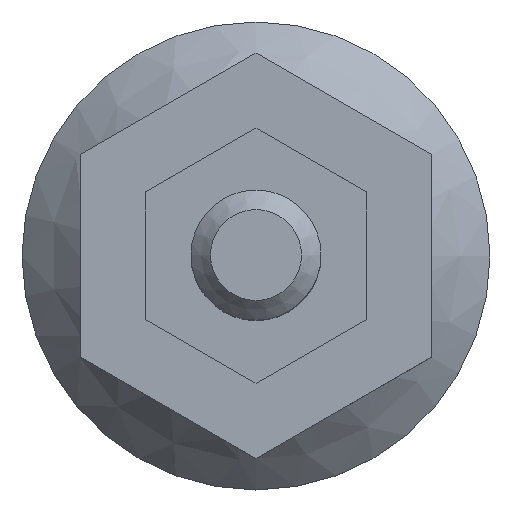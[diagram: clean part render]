
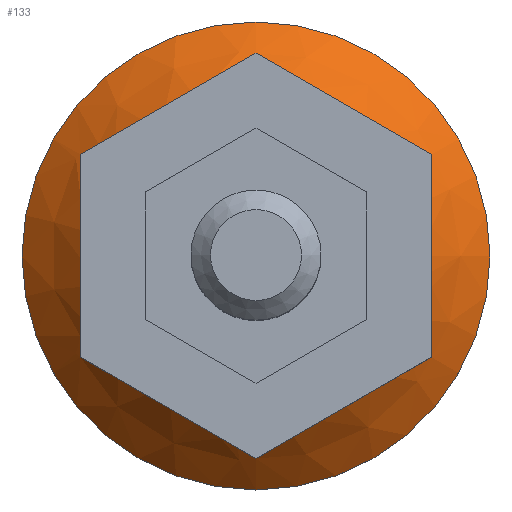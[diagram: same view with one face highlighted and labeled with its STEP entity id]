
A CAD part, top view. The second image highlights one B-rep face of the part: STEP entity #133.
In plain terms, the highlighted conical face has half-angle 45 degrees and reference radius 13 mm.
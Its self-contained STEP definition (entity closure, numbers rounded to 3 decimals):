
#27=CARTESIAN_POINT('',(18.,0.,2.));
#28=VERTEX_POINT('',#27);
#35=CARTESIAN_POINT('',(0.,0.,2.));
#36=DIRECTION('',(1.,0.,-0.));
#37=DIRECTION('',(0.,-0.,1.));
#38=AXIS2_PLACEMENT_3D('',#35,#37,#36);
#39=CIRCLE('',#38,18.);
#40=EDGE_CURVE('',#28,#28,#39,.T.);
#62=CARTESIAN_POINT('',(0.,0.,7.));
#63=DIRECTION('',(1.,0.,0.));
#64=DIRECTION('',(0.,0.,-1.));
#65=AXIS2_PLACEMENT_3D('',#62,#64,#63);
#66=CONICAL_SURFACE('',#65,13.,0.785);
#67=CARTESIAN_POINT('',(13.5,0.,6.5));
#68=VERTEX_POINT('',#67);
#69=CARTESIAN_POINT('',(18.,0.,2.));
#70=DIRECTION('',(-0.707,0.,0.707));
#71=VECTOR('',#70,6.364);
#72=LINE('',#69,#71);
#73=EDGE_CURVE('',#28,#68,#72,.T.);
#74=ORIENTED_EDGE('E2',*,*,#73,.T.);
#75=CARTESIAN_POINT('',(13.5,7.794,4.412));
#76=VERTEX_POINT('',#75);
#77=CARTESIAN_POINT('',(13.5,0.,6.5));
#78=CARTESIAN_POINT('',(13.5,3.617,6.5));
#79=CARTESIAN_POINT('',(13.5,7.794,4.412));
#80=(BOUNDED_CURVE()B_SPLINE_CURVE(2,(#77,#78,#79),.HYPERBOLIC_ARC.,.F.,.U.)B_SPLINE_CURVE_WITH_KNOTS((3,3),(0.,1.),.UNSPECIFIED.)CURVE()GEOMETRIC_REPRESENTATION_ITEM()RATIONAL_B_SPLINE_CURVE((1.167,1.167,1.083))REPRESENTATION_ITEM(''));
#81=EDGE_CURVE('',#68,#76,#80,.T.);
#82=ORIENTED_EDGE('E23',*,*,#81,.T.);
#83=CARTESIAN_POINT('',(0.,15.588,4.412));
#84=VERTEX_POINT('',#83);
#85=CARTESIAN_POINT('',(13.5,7.794,4.412));
#86=CARTESIAN_POINT('',(6.75,11.691,8.309));
#87=CARTESIAN_POINT('',(0.,15.588,4.412));
#88=(BOUNDED_CURVE()B_SPLINE_CURVE(2,(#85,#86,#87),.HYPERBOLIC_ARC.,.F.,.U.)B_SPLINE_CURVE_WITH_KNOTS((3,3),(0.,1.),.UNSPECIFIED.)CURVE()GEOMETRIC_REPRESENTATION_ITEM()RATIONAL_B_SPLINE_CURVE((1.083,1.25,1.083))REPRESENTATION_ITEM(''));
#89=EDGE_CURVE('',#76,#84,#88,.T.);
#90=ORIENTED_EDGE('E21',*,*,#89,.T.);
#91=CARTESIAN_POINT('',(-13.5,7.794,4.412));
#92=VERTEX_POINT('',#91);
#93=CARTESIAN_POINT('',(0.,15.588,4.412));
#94=CARTESIAN_POINT('',(-6.75,11.691,8.309));
#95=CARTESIAN_POINT('',(-13.5,7.794,4.412));
#96=(BOUNDED_CURVE()B_SPLINE_CURVE(2,(#93,#94,#95),.HYPERBOLIC_ARC.,.F.,.U.)B_SPLINE_CURVE_WITH_KNOTS((3,3),(0.,1.),.UNSPECIFIED.)CURVE()GEOMETRIC_REPRESENTATION_ITEM()RATIONAL_B_SPLINE_CURVE((1.083,1.25,1.083))REPRESENTATION_ITEM(''));
#97=EDGE_CURVE('',#84,#92,#96,.T.);
#98=ORIENTED_EDGE('E20',*,*,#97,.T.);
#99=CARTESIAN_POINT('',(-13.5,-7.794,4.412));
#100=VERTEX_POINT('',#99);
#101=CARTESIAN_POINT('',(-13.5,7.794,4.412));
#102=CARTESIAN_POINT('',(-13.5,0.,8.309));
#103=CARTESIAN_POINT('',(-13.5,-7.794,4.412));
#104=(BOUNDED_CURVE()B_SPLINE_CURVE(2,(#101,#102,#103),.HYPERBOLIC_ARC.,.F.,.U.)B_SPLINE_CURVE_WITH_KNOTS((3,3),(0.,1.),.UNSPECIFIED.)CURVE()GEOMETRIC_REPRESENTATION_ITEM()RATIONAL_B_SPLINE_CURVE((1.083,1.25,1.083))REPRESENTATION_ITEM(''));
#105=EDGE_CURVE('',#92,#100,#104,.T.);
#106=ORIENTED_EDGE('E19',*,*,#105,.T.);
#107=CARTESIAN_POINT('',(0.,-15.588,4.412));
#108=VERTEX_POINT('',#107);
#109=CARTESIAN_POINT('',(-13.5,-7.794,4.412));
#110=CARTESIAN_POINT('',(-6.75,-11.691,8.309));
#111=CARTESIAN_POINT('',(0.,-15.588,4.412));
#112=(BOUNDED_CURVE()B_SPLINE_CURVE(2,(#109,#110,#111),.HYPERBOLIC_ARC.,.F.,.U.)B_SPLINE_CURVE_WITH_KNOTS((3,3),(0.,1.),.UNSPECIFIED.)CURVE()GEOMETRIC_REPRESENTATION_ITEM()RATIONAL_B_SPLINE_CURVE((1.083,1.25,1.083))REPRESENTATION_ITEM(''));
#113=EDGE_CURVE('',#100,#108,#112,.T.);
#114=ORIENTED_EDGE('E18',*,*,#113,.T.);
#115=CARTESIAN_POINT('',(13.5,-7.794,4.412));
#116=VERTEX_POINT('',#115);
#117=CARTESIAN_POINT('',(0.,-15.588,4.412));
#118=CARTESIAN_POINT('',(6.75,-11.691,8.309));
#119=CARTESIAN_POINT('',(13.5,-7.794,4.412));
#120=(BOUNDED_CURVE()B_SPLINE_CURVE(2,(#117,#118,#119),.HYPERBOLIC_ARC.,.F.,.U.)B_SPLINE_CURVE_WITH_KNOTS((3,3),(0.,1.),.UNSPECIFIED.)CURVE()GEOMETRIC_REPRESENTATION_ITEM()RATIONAL_B_SPLINE_CURVE((1.083,1.25,1.083))REPRESENTATION_ITEM(''));
#121=EDGE_CURVE('',#108,#116,#120,.T.);
#122=ORIENTED_EDGE('E24',*,*,#121,.T.);
#123=CARTESIAN_POINT('',(13.5,-7.794,4.412));
#124=CARTESIAN_POINT('',(13.5,-3.617,6.5));
#125=CARTESIAN_POINT('',(13.5,0.,6.5));
#126=(BOUNDED_CURVE()B_SPLINE_CURVE(2,(#123,#124,#125),.HYPERBOLIC_ARC.,.F.,.U.)B_SPLINE_CURVE_WITH_KNOTS((3,3),(0.,1.),.UNSPECIFIED.)CURVE()GEOMETRIC_REPRESENTATION_ITEM()RATIONAL_B_SPLINE_CURVE((1.083,1.167,1.167))REPRESENTATION_ITEM(''));
#127=EDGE_CURVE('',#116,#68,#126,.T.);
#128=ORIENTED_EDGE('E22',*,*,#127,.T.);
#129=ORIENTED_EDGE('E22',*,*,#73,.F.);
#130=ORIENTED_EDGE('E22',*,*,#40,.F.);
#131=EDGE_LOOP('',(#74,#82,#90,#98,#106,#114,#122,#128,#129,#130));
#132=FACE_OUTER_BOUND('',#131,.F.);
#133=ADVANCED_FACE('F3',(#132),#66,.T.);
